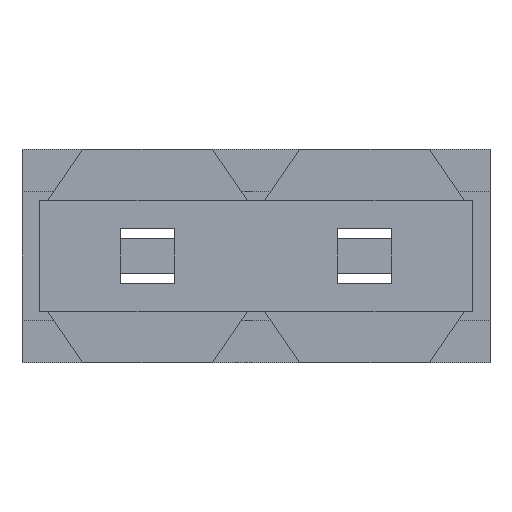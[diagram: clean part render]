
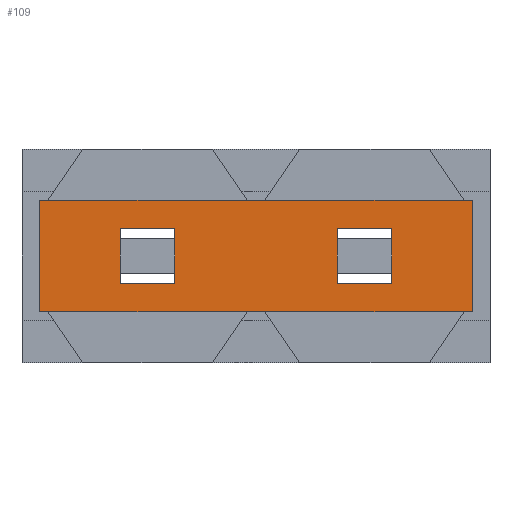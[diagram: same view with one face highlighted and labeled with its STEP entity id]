
A CAD part, front view. The second image highlights one B-rep face of the part: STEP entity #109.
In plain terms, the highlighted planar face has unit normal (0, -1, 0).
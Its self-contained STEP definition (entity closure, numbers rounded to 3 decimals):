
#55=FACE_BOUND('',#469,.T.);
#56=FACE_BOUND('',#470,.T.);
#57=FACE_BOUND('',#471,.T.);
#109=ADVANCED_FACE('',(#55,#56,#57),#229,.T.);
#229=PLANE('',#2506);
#469=EDGE_LOOP('',(#810,#811,#812,#813));
#470=EDGE_LOOP('',(#814,#815,#816,#817,#818,#819,#820,#821,#822,#823,#824,
#825));
#471=EDGE_LOOP('',(#826,#827,#828,#829));
#810=ORIENTED_EDGE('',*,*,#1538,.T.);
#811=ORIENTED_EDGE('',*,*,#1536,.T.);
#812=ORIENTED_EDGE('',*,*,#1533,.T.);
#813=ORIENTED_EDGE('',*,*,#1530,.T.);
#814=ORIENTED_EDGE('',*,*,#1611,.F.);
#815=ORIENTED_EDGE('',*,*,#1612,.F.);
#816=ORIENTED_EDGE('',*,*,#1613,.F.);
#817=ORIENTED_EDGE('',*,*,#1614,.T.);
#818=ORIENTED_EDGE('',*,*,#1615,.F.);
#819=ORIENTED_EDGE('',*,*,#1616,.F.);
#820=ORIENTED_EDGE('',*,*,#1605,.F.);
#821=ORIENTED_EDGE('',*,*,#1540,.F.);
#822=ORIENTED_EDGE('',*,*,#1525,.F.);
#823=ORIENTED_EDGE('',*,*,#1522,.F.);
#824=ORIENTED_EDGE('',*,*,#1519,.F.);
#825=ORIENTED_EDGE('',*,*,#1542,.F.);
#826=ORIENTED_EDGE('',*,*,#1617,.T.);
#827=ORIENTED_EDGE('',*,*,#1618,.T.);
#828=ORIENTED_EDGE('',*,*,#1619,.T.);
#829=ORIENTED_EDGE('',*,*,#1620,.T.);
#1240=VERTEX_POINT('',#3178);
#1249=VERTEX_POINT('',#3198);
#1289=VERTEX_POINT('',#3320);
#1291=VERTEX_POINT('',#3326);
#1293=VERTEX_POINT('',#3335);
#1296=VERTEX_POINT('',#3340);
#1297=VERTEX_POINT('',#3344);
#1299=VERTEX_POINT('',#3350);
#1302=VERTEX_POINT('',#3361);
#1303=VERTEX_POINT('',#3365);
#1351=VERTEX_POINT('',#3486);
#1354=VERTEX_POINT('',#3495);
#1355=VERTEX_POINT('',#3499);
#1356=VERTEX_POINT('',#3501);
#1357=VERTEX_POINT('',#3503);
#1358=VERTEX_POINT('',#3505);
#1359=VERTEX_POINT('',#3508);
#1360=VERTEX_POINT('',#3509);
#1361=VERTEX_POINT('',#3511);
#1362=VERTEX_POINT('',#3513);
#1519=EDGE_CURVE('',#1249,#1289,#1859,.T.);
#1522=EDGE_CURVE('',#1289,#1291,#1862,.T.);
#1525=EDGE_CURVE('',#1291,#1240,#1865,.T.);
#1530=EDGE_CURVE('',#1293,#1296,#1870,.T.);
#1533=EDGE_CURVE('',#1297,#1293,#1873,.T.);
#1536=EDGE_CURVE('',#1299,#1297,#1876,.T.);
#1538=EDGE_CURVE('',#1296,#1299,#1878,.T.);
#1540=EDGE_CURVE('',#1240,#1302,#1880,.T.);
#1542=EDGE_CURVE('',#1303,#1249,#1882,.T.);
#1605=EDGE_CURVE('',#1302,#1351,#1945,.T.);
#1611=EDGE_CURVE('',#1354,#1303,#1951,.T.);
#1612=EDGE_CURVE('',#1355,#1354,#1952,.T.);
#1613=EDGE_CURVE('',#1356,#1355,#1953,.T.);
#1614=EDGE_CURVE('',#1356,#1357,#1954,.T.);
#1615=EDGE_CURVE('',#1358,#1357,#1955,.T.);
#1616=EDGE_CURVE('',#1351,#1358,#1956,.T.);
#1617=EDGE_CURVE('',#1359,#1360,#1957,.T.);
#1618=EDGE_CURVE('',#1360,#1361,#1958,.T.);
#1619=EDGE_CURVE('',#1361,#1362,#1959,.T.);
#1620=EDGE_CURVE('',#1362,#1359,#1960,.T.);
#1859=LINE('',#3319,#2199);
#1862=LINE('',#3325,#2202);
#1865=LINE('',#3331,#2205);
#1870=LINE('',#3341,#2210);
#1873=LINE('',#3347,#2213);
#1876=LINE('',#3353,#2216);
#1878=LINE('',#3356,#2218);
#1880=LINE('',#3360,#2220);
#1882=LINE('',#3364,#2222);
#1945=LINE('',#3485,#2285);
#1951=LINE('',#3496,#2291);
#1952=LINE('',#3498,#2292);
#1953=LINE('',#3500,#2293);
#1954=LINE('',#3502,#2294);
#1955=LINE('',#3504,#2295);
#1956=LINE('',#3506,#2296);
#1957=LINE('',#3507,#2297);
#1958=LINE('',#3510,#2298);
#1959=LINE('',#3512,#2299);
#1960=LINE('',#3514,#2300);
#2199=VECTOR('',#2706,1.);
#2202=VECTOR('',#2711,1.);
#2205=VECTOR('',#2716,1.);
#2210=VECTOR('',#2723,1.);
#2213=VECTOR('',#2728,1.);
#2216=VECTOR('',#2733,1.);
#2218=VECTOR('',#2737,1.);
#2220=VECTOR('',#2741,1.);
#2222=VECTOR('',#2745,1.);
#2285=VECTOR('',#2828,1.);
#2291=VECTOR('',#2836,1.);
#2292=VECTOR('',#2839,1.);
#2293=VECTOR('',#2840,1.);
#2294=VECTOR('',#2841,1.);
#2295=VECTOR('',#2842,1.);
#2296=VECTOR('',#2843,1.);
#2297=VECTOR('',#2844,1.);
#2298=VECTOR('',#2845,1.);
#2299=VECTOR('',#2846,1.);
#2300=VECTOR('',#2847,1.);
#2506=AXIS2_PLACEMENT_3D('',#3515,#2848,#2849);
#2706=DIRECTION('',(1.,0.,0.));
#2711=DIRECTION('',(0.,0.,-1.));
#2716=DIRECTION('',(-1.,0.,0.));
#2723=DIRECTION('',(0.,0.,1.));
#2728=DIRECTION('',(-1.,0.,0.));
#2733=DIRECTION('',(0.,0.,-1.));
#2737=DIRECTION('',(1.,0.,0.));
#2741=DIRECTION('',(-1.,0.,0.));
#2745=DIRECTION('',(1.,0.,0.));
#2828=DIRECTION('',(-1.,0.,0.));
#2836=DIRECTION('',(1.,0.,0.));
#2839=DIRECTION('',(1.,0.,0.));
#2840=DIRECTION('',(1.,0.,0.));
#2841=DIRECTION('',(0.,0.,-1.));
#2842=DIRECTION('',(-1.,0.,0.));
#2843=DIRECTION('',(-1.,0.,0.));
#2844=DIRECTION('',(1.,0.,0.));
#2845=DIRECTION('',(0.,0.,-1.));
#2846=DIRECTION('',(-1.,0.,0.));
#2847=DIRECTION('',(0.,0.,1.));
#2848=DIRECTION('',(0.,-1.,0.));
#2849=DIRECTION('',(0.,0.,1.));
#3178=CARTESIAN_POINT('',(-4.98,-7.,-1.88));
#3198=CARTESIAN_POINT('',(-4.98,-7.,-0.58));
#3319=CARTESIAN_POINT('',(-4.88,-7.,-0.58));
#3320=CARTESIAN_POINT('',(-4.88,-7.,-0.58));
#3325=CARTESIAN_POINT('',(-4.88,-7.,-0.58));
#3326=CARTESIAN_POINT('',(-4.88,-7.,-1.88));
#3331=CARTESIAN_POINT('',(-4.88,-7.,-1.88));
#3335=CARTESIAN_POINT('',(-6.47,-7.,-1.55));
#3340=CARTESIAN_POINT('',(-6.47,-7.,-0.91));
#3341=CARTESIAN_POINT('',(-6.47,-7.,-0.91));
#3344=CARTESIAN_POINT('',(-5.83,-7.,-1.55));
#3347=CARTESIAN_POINT('',(-5.83,-7.,-1.55));
#3350=CARTESIAN_POINT('',(-5.83,-7.,-0.91));
#3353=CARTESIAN_POINT('',(-5.83,-7.,-0.91));
#3356=CARTESIAN_POINT('',(-5.83,-7.,-0.91));
#3360=CARTESIAN_POINT('',(-4.88,-7.,-1.88));
#3361=CARTESIAN_POINT('',(-7.32,-7.,-1.88));
#3364=CARTESIAN_POINT('',(-4.88,-7.,-0.58));
#3365=CARTESIAN_POINT('',(-7.32,-7.,-0.58));
#3485=CARTESIAN_POINT('',(-7.52,-7.,-1.88));
#3486=CARTESIAN_POINT('',(-7.52,-7.,-1.88));
#3495=CARTESIAN_POINT('',(-7.52,-7.,-0.58));
#3496=CARTESIAN_POINT('',(-4.88,-7.,-0.58));
#3498=CARTESIAN_POINT('',(-7.42,-7.,-0.58));
#3499=CARTESIAN_POINT('',(-9.86,-7.,-0.58));
#3500=CARTESIAN_POINT('',(-7.42,-7.,-0.58));
#3501=CARTESIAN_POINT('',(-9.96,-7.,-0.58));
#3502=CARTESIAN_POINT('',(-9.96,-7.,0.));
#3503=CARTESIAN_POINT('',(-9.96,-7.,-1.88));
#3504=CARTESIAN_POINT('',(-10.06,-7.,-1.88));
#3505=CARTESIAN_POINT('',(-9.86,-7.,-1.88));
#3506=CARTESIAN_POINT('',(-7.42,-7.,-1.88));
#3507=CARTESIAN_POINT('',(-8.37,-7.,-0.91));
#3508=CARTESIAN_POINT('',(-9.01,-7.,-0.91));
#3509=CARTESIAN_POINT('',(-8.37,-7.,-0.91));
#3510=CARTESIAN_POINT('',(-8.37,-7.,-0.91));
#3511=CARTESIAN_POINT('',(-8.37,-7.,-1.55));
#3512=CARTESIAN_POINT('',(-8.37,-7.,-1.55));
#3513=CARTESIAN_POINT('',(-9.01,-7.,-1.55));
#3514=CARTESIAN_POINT('',(-9.01,-7.,-0.91));
#3515=CARTESIAN_POINT('',(0.,-7.,0.));
